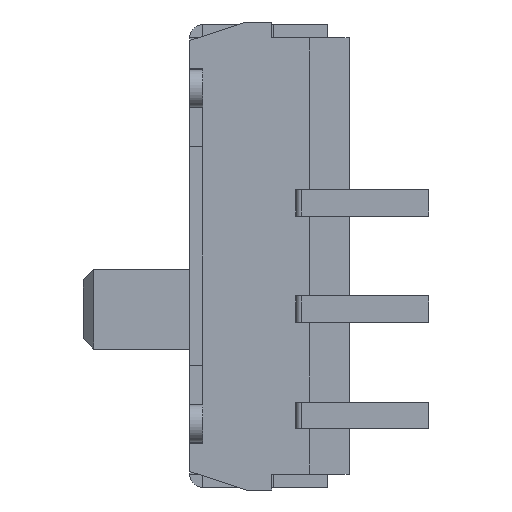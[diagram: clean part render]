
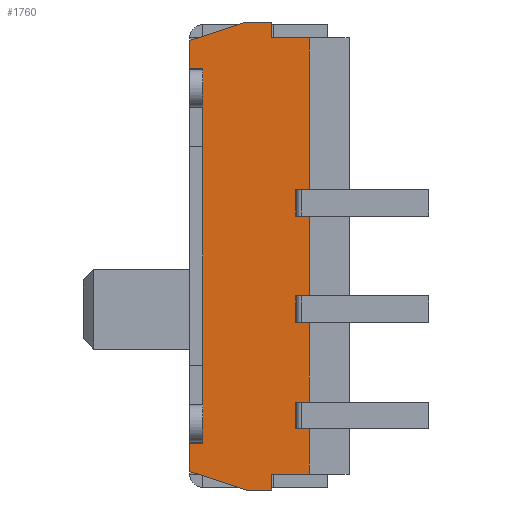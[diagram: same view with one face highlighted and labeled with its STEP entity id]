
A CAD part, left-side view. The second image highlights one B-rep face of the part: STEP entity #1760.
In plain terms, the highlighted planar face has unit normal (-1, 0, 0).
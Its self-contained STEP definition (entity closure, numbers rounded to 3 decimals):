
#23=DIRECTION('',(0.,0.,-1.));
#24=VECTOR('',#23,0.5);
#25=CARTESIAN_POINT('',(-1.,1.,-2.75));
#26=LINE('',#25,#24);
#31=DIRECTION('',(0.,1.,0.));
#32=VECTOR('',#31,0.25);
#33=CARTESIAN_POINT('',(-1.,0.75,-3.25));
#34=LINE('',#33,#32);
#38=DIRECTION('',(0.,0.,-1.));
#39=VECTOR('',#38,0.85);
#40=CARTESIAN_POINT('',(-1.,0.75,-3.25));
#41=LINE('',#40,#39);
#45=DIRECTION('',(0.,1.,0.));
#46=VECTOR('',#45,0.7);
#47=CARTESIAN_POINT('',(-1.,0.75,-4.1));
#48=LINE('',#47,#46);
#52=DIRECTION('',(0.,0.,-1.));
#53=VECTOR('',#52,0.3);
#54=CARTESIAN_POINT('',(-1.,1.45,-4.1));
#55=LINE('',#54,#53);
#59=DIRECTION('',(0.,1.,0.));
#60=VECTOR('',#59,0.473);
#61=CARTESIAN_POINT('',(-1.,1.45,-4.4));
#62=LINE('',#61,#60);
#66=DIRECTION('',(0.,0.951,0.309));
#67=VECTOR('',#66,1.133);
#68=CARTESIAN_POINT('',(-1.,1.923,-4.4));
#69=LINE('',#68,#67);
#73=DIRECTION('',(0.,0.,1.));
#74=VECTOR('',#73,0.525);
#75=CARTESIAN_POINT('',(-1.,3.,-4.05));
#76=LINE('',#75,#74);
#80=DIRECTION('',(0.,-1.,0.));
#81=VECTOR('',#80,0.25);
#82=CARTESIAN_POINT('',(-1.,3.,-3.525));
#83=LINE('',#82,#81);
#87=DIRECTION('',(0.,0.,1.));
#88=VECTOR('',#87,7.05);
#89=CARTESIAN_POINT('',(-1.,2.75,-3.525));
#90=LINE('',#89,#88);
#94=DIRECTION('',(0.,1.,0.));
#95=VECTOR('',#94,0.25);
#96=CARTESIAN_POINT('',(-1.,2.75,3.525));
#97=LINE('',#96,#95);
#101=DIRECTION('',(0.,0.,1.));
#102=VECTOR('',#101,0.525);
#103=CARTESIAN_POINT('',(-1.,3.,3.525));
#104=LINE('',#103,#102);
#108=DIRECTION('',(0.,-0.951,0.309));
#109=VECTOR('',#108,1.133);
#110=CARTESIAN_POINT('',(-1.,3.,4.05));
#111=LINE('',#110,#109);
#115=DIRECTION('',(0.,-1.,0.));
#116=VECTOR('',#115,0.473);
#117=CARTESIAN_POINT('',(-1.,1.923,4.4));
#118=LINE('',#117,#116);
#122=DIRECTION('',(0.,0.,-1.));
#123=VECTOR('',#122,0.3);
#124=CARTESIAN_POINT('',(-1.,1.45,4.4));
#125=LINE('',#124,#123);
#129=DIRECTION('',(0.,-1.,0.));
#130=VECTOR('',#129,0.7);
#131=CARTESIAN_POINT('',(-1.,1.45,4.1));
#132=LINE('',#131,#130);
#136=DIRECTION('',(0.,0.,-1.));
#137=VECTOR('',#136,2.85);
#138=CARTESIAN_POINT('',(-1.,0.75,4.1));
#139=LINE('',#138,#137);
#143=DIRECTION('',(0.,1.,0.));
#144=VECTOR('',#143,0.25);
#145=CARTESIAN_POINT('',(-1.,0.75,1.25));
#146=LINE('',#145,#144);
#150=DIRECTION('',(0.,0.,-1.));
#151=VECTOR('',#150,0.5);
#152=CARTESIAN_POINT('',(-1.,1.,1.25));
#153=LINE('',#152,#151);
#157=DIRECTION('',(0.,1.,0.));
#158=VECTOR('',#157,0.25);
#159=CARTESIAN_POINT('',(-1.,0.75,0.75));
#160=LINE('',#159,#158);
#164=DIRECTION('',(0.,0.,-1.));
#165=VECTOR('',#164,1.5);
#166=CARTESIAN_POINT('',(-1.,0.75,0.75));
#167=LINE('',#166,#165);
#171=DIRECTION('',(0.,1.,0.));
#172=VECTOR('',#171,0.25);
#173=CARTESIAN_POINT('',(-1.,0.75,-0.75));
#174=LINE('',#173,#172);
#178=DIRECTION('',(0.,0.,-1.));
#179=VECTOR('',#178,0.5);
#180=CARTESIAN_POINT('',(-1.,1.,-0.75));
#181=LINE('',#180,#179);
#185=DIRECTION('',(0.,1.,0.));
#186=VECTOR('',#185,0.25);
#187=CARTESIAN_POINT('',(-1.,0.75,-1.25));
#188=LINE('',#187,#186);
#192=DIRECTION('',(0.,0.,-1.));
#193=VECTOR('',#192,1.5);
#194=CARTESIAN_POINT('',(-1.,0.75,-1.25));
#195=LINE('',#194,#193);
#199=DIRECTION('',(0.,1.,0.));
#200=VECTOR('',#199,0.25);
#201=CARTESIAN_POINT('',(-1.,0.75,-2.75));
#202=LINE('',#201,#200);
#1437=CARTESIAN_POINT('',(-1.,1.923,-4.4));
#1438=CARTESIAN_POINT('',(-1.,3.,-4.05));
#1439=VERTEX_POINT('',#1437);
#1440=VERTEX_POINT('',#1438);
#1441=CARTESIAN_POINT('',(-1.,3.,-3.525));
#1442=VERTEX_POINT('',#1441);
#1443=CARTESIAN_POINT('',(-1.,2.75,-3.525));
#1444=VERTEX_POINT('',#1443);
#1445=CARTESIAN_POINT('',(-1.,2.75,3.525));
#1446=VERTEX_POINT('',#1445);
#1447=CARTESIAN_POINT('',(-1.,3.,3.525));
#1448=VERTEX_POINT('',#1447);
#1449=CARTESIAN_POINT('',(-1.,3.,4.05));
#1450=VERTEX_POINT('',#1449);
#1451=CARTESIAN_POINT('',(-1.,1.923,4.4));
#1452=VERTEX_POINT('',#1451);
#1453=CARTESIAN_POINT('',(-1.,1.45,4.4));
#1454=VERTEX_POINT('',#1453);
#1455=CARTESIAN_POINT('',(-1.,1.45,4.1));
#1456=VERTEX_POINT('',#1455);
#1457=CARTESIAN_POINT('',(-1.,1.45,-4.1));
#1458=CARTESIAN_POINT('',(-1.,1.45,-4.4));
#1459=VERTEX_POINT('',#1457);
#1460=VERTEX_POINT('',#1458);
#1495=CARTESIAN_POINT('',(-1.,0.75,4.1));
#1496=VERTEX_POINT('',#1495);
#1505=CARTESIAN_POINT('',(-1.,0.75,-4.1));
#1506=VERTEX_POINT('',#1505);
#1609=CARTESIAN_POINT('',(-1.,0.75,1.25));
#1610=VERTEX_POINT('',#1609);
#1611=CARTESIAN_POINT('',(-1.,0.75,0.75));
#1612=CARTESIAN_POINT('',(-1.,0.75,-0.75));
#1613=VERTEX_POINT('',#1611);
#1614=VERTEX_POINT('',#1612);
#1615=CARTESIAN_POINT('',(-1.,0.75,-1.25));
#1616=CARTESIAN_POINT('',(-1.,0.75,-2.75));
#1617=VERTEX_POINT('',#1615);
#1618=VERTEX_POINT('',#1616);
#1619=CARTESIAN_POINT('',(-1.,0.75,-3.25));
#1620=VERTEX_POINT('',#1619);
#1646=CARTESIAN_POINT('',(-1.,1.,-3.25));
#1648=VERTEX_POINT('',#1646);
#1649=CARTESIAN_POINT('',(-1.,1.,-2.75));
#1650=VERTEX_POINT('',#1649);
#1654=CARTESIAN_POINT('',(-1.,1.,-1.25));
#1656=VERTEX_POINT('',#1654);
#1657=CARTESIAN_POINT('',(-1.,1.,-0.75));
#1658=VERTEX_POINT('',#1657);
#1662=CARTESIAN_POINT('',(-1.,1.,0.75));
#1664=VERTEX_POINT('',#1662);
#1665=CARTESIAN_POINT('',(-1.,1.,1.25));
#1666=VERTEX_POINT('',#1665);
#1701=CARTESIAN_POINT('',(-1.,0.,0.));
#1702=DIRECTION('',(1.,0.,0.));
#1703=DIRECTION('',(0.,-1.,0.));
#1704=AXIS2_PLACEMENT_3D('',#1701,#1702,#1703);
#1705=PLANE('',#1704);
#1707=ORIENTED_EDGE('',*,*,#1706,.T.);
#1709=ORIENTED_EDGE('',*,*,#1708,.F.);
#1711=ORIENTED_EDGE('',*,*,#1710,.T.);
#1713=ORIENTED_EDGE('',*,*,#1712,.T.);
#1715=ORIENTED_EDGE('',*,*,#1714,.T.);
#1717=ORIENTED_EDGE('',*,*,#1716,.T.);
#1719=ORIENTED_EDGE('',*,*,#1718,.T.);
#1721=ORIENTED_EDGE('',*,*,#1720,.T.);
#1723=ORIENTED_EDGE('',*,*,#1722,.T.);
#1725=ORIENTED_EDGE('',*,*,#1724,.T.);
#1727=ORIENTED_EDGE('',*,*,#1726,.T.);
#1729=ORIENTED_EDGE('',*,*,#1728,.T.);
#1731=ORIENTED_EDGE('',*,*,#1730,.T.);
#1733=ORIENTED_EDGE('',*,*,#1732,.T.);
#1735=ORIENTED_EDGE('',*,*,#1734,.T.);
#1737=ORIENTED_EDGE('',*,*,#1736,.T.);
#1739=ORIENTED_EDGE('',*,*,#1738,.T.);
#1741=ORIENTED_EDGE('',*,*,#1740,.T.);
#1743=ORIENTED_EDGE('',*,*,#1742,.T.);
#1745=ORIENTED_EDGE('',*,*,#1744,.F.);
#1747=ORIENTED_EDGE('',*,*,#1746,.T.);
#1749=ORIENTED_EDGE('',*,*,#1748,.T.);
#1751=ORIENTED_EDGE('',*,*,#1750,.T.);
#1753=ORIENTED_EDGE('',*,*,#1752,.F.);
#1755=ORIENTED_EDGE('',*,*,#1754,.T.);
#1757=ORIENTED_EDGE('',*,*,#1756,.T.);
#1758=EDGE_LOOP('',(#1707,#1709,#1711,#1713,#1715,#1717,#1719,#1721,#1723,#1725,
#1727,#1729,#1731,#1733,#1735,#1737,#1739,#1741,#1743,#1745,#1747,#1749,#1751,
#1753,#1755,#1757));
#1759=FACE_OUTER_BOUND('',#1758,.F.);
#1706=EDGE_CURVE('',#1650,#1648,#26,.T.);
#1708=EDGE_CURVE('',#1620,#1648,#34,.T.);
#1710=EDGE_CURVE('',#1620,#1506,#41,.T.);
#1712=EDGE_CURVE('',#1506,#1459,#48,.T.);
#1714=EDGE_CURVE('',#1459,#1460,#55,.T.);
#1716=EDGE_CURVE('',#1460,#1439,#62,.T.);
#1718=EDGE_CURVE('',#1439,#1440,#69,.T.);
#1720=EDGE_CURVE('',#1440,#1442,#76,.T.);
#1722=EDGE_CURVE('',#1442,#1444,#83,.T.);
#1724=EDGE_CURVE('',#1444,#1446,#90,.T.);
#1726=EDGE_CURVE('',#1446,#1448,#97,.T.);
#1728=EDGE_CURVE('',#1448,#1450,#104,.T.);
#1730=EDGE_CURVE('',#1450,#1452,#111,.T.);
#1732=EDGE_CURVE('',#1452,#1454,#118,.T.);
#1734=EDGE_CURVE('',#1454,#1456,#125,.T.);
#1736=EDGE_CURVE('',#1456,#1496,#132,.T.);
#1738=EDGE_CURVE('',#1496,#1610,#139,.T.);
#1740=EDGE_CURVE('',#1610,#1666,#146,.T.);
#1742=EDGE_CURVE('',#1666,#1664,#153,.T.);
#1744=EDGE_CURVE('',#1613,#1664,#160,.T.);
#1746=EDGE_CURVE('',#1613,#1614,#167,.T.);
#1748=EDGE_CURVE('',#1614,#1658,#174,.T.);
#1750=EDGE_CURVE('',#1658,#1656,#181,.T.);
#1752=EDGE_CURVE('',#1617,#1656,#188,.T.);
#1754=EDGE_CURVE('',#1617,#1618,#195,.T.);
#1756=EDGE_CURVE('',#1618,#1650,#202,.T.);
#1760=ADVANCED_FACE('',(#1759),#1705,.F.);
